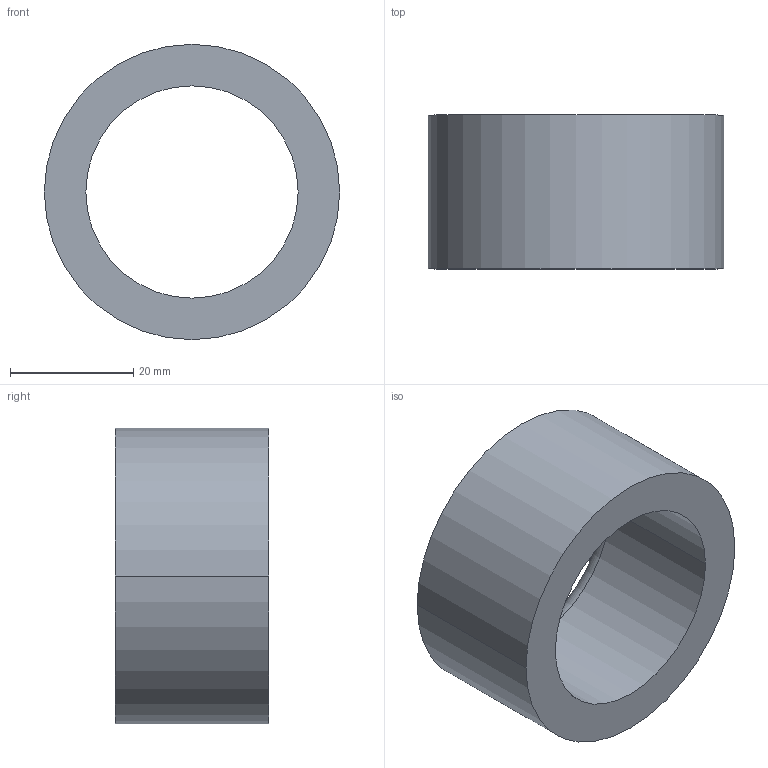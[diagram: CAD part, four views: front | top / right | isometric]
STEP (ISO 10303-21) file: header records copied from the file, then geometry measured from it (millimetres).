
FILE_DESCRIPTION (( 'STEP AP203' ), '1' );
FILE_NAME ('30800.WPP48J34.5.step', '2019-01-23T22:53:15', ( '' ), ( '' ), 'SwSTEP 2.0', 'SolidWorks 2017', '' );
FILE_SCHEMA (( 'CONFIG_CONTROL_DESIGN' ));
Length unit declared in the file: millimetre
Products named in the file (1): 30800.WPP48J34.5
Bounding box: 48 x 25 x 48 mm (x, y, z)
Volume: 21651 mm3; surface area: 8093.5 mm2
Topology: 1 solids, 1 shells, 8 faces, 16 edges, 10 vertices
Faces by surface type: cylinder 4, torus 2, plane 2
Entity records: 297 total; most frequent: DIRECTION 46, CARTESIAN_POINT 35, ORIENTED_EDGE 32, AXIS2_PLACEMENT_3D 21, EDGE_CURVE 16, CIRCLE 12, EDGE_LOOP 10, VERTEX_POINT 10
